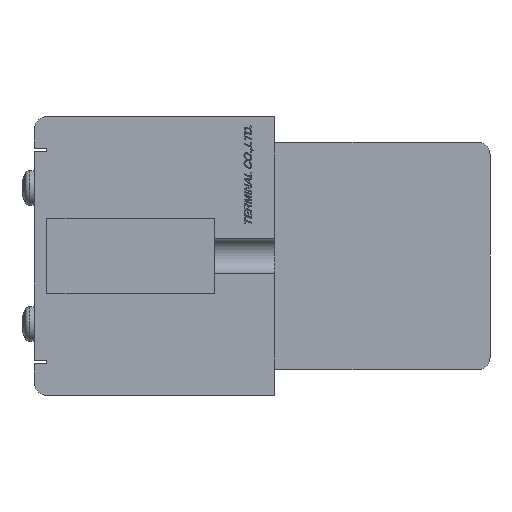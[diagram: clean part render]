
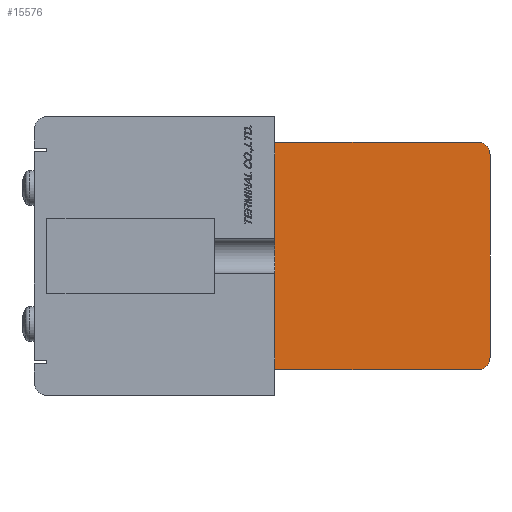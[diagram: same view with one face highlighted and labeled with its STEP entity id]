
A CAD part, left-side view. The second image highlights one B-rep face of the part: STEP entity #15576.
In plain terms, the highlighted planar face has unit normal (-1, 0, 0).
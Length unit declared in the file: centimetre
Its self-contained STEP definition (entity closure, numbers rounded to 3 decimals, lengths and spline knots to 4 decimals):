
#837=CIRCLE('',#16641,0.2);
#838=CIRCLE('',#16644,0.2);
#2269=VERTEX_POINT('',#24600);
#2270=VERTEX_POINT('',#24602);
#2277=VERTEX_POINT('',#24634);
#2278=VERTEX_POINT('',#24638);
#2279=VERTEX_POINT('',#24642);
#2280=VERTEX_POINT('',#24646);
#3849=VECTOR('',#19543,1.);
#3862=VECTOR('',#19571,1.);
#3865=VECTOR('',#19579,1.);
#3868=VECTOR('',#19587,1.);
#5403=LINE('',#24603,#3849);
#5416=LINE('',#24633,#3862);
#5419=LINE('',#24641,#3865);
#5422=LINE('',#24649,#3868);
#7648=EDGE_CURVE('',#2270,#2269,#5403,.T.);
#7663=EDGE_CURVE('',#2269,#2277,#5416,.T.);
#7665=EDGE_CURVE('',#2277,#2278,#837,.T.);
#7667=EDGE_CURVE('',#2278,#2279,#5419,.T.);
#7669=EDGE_CURVE('',#2279,#2280,#838,.T.);
#7671=EDGE_CURVE('',#2280,#2270,#5422,.T.);
#12128=ORIENTED_EDGE('',*,*,#7648,.F.);
#12129=ORIENTED_EDGE('',*,*,#7671,.F.);
#12130=ORIENTED_EDGE('',*,*,#7669,.F.);
#12131=ORIENTED_EDGE('',*,*,#7667,.F.);
#12132=ORIENTED_EDGE('',*,*,#7665,.F.);
#12133=ORIENTED_EDGE('',*,*,#7663,.F.);
#13637=EDGE_LOOP('',(#12128,#12129,#12130,#12131,#12132,#12133));
#14654=FACE_BOUND('',#13637,.T.);
#15576=ADVANCED_FACE('',(#14654),#25758,.F.);
#16641=AXIS2_PLACEMENT_3D('',#24637,#19575,#19576);
#16644=AXIS2_PLACEMENT_3D('',#24645,#19583,#19584);
#16646=AXIS2_PLACEMENT_3D('',#24650,#19588,$);
#19543=DIRECTION('',(0.,0.,1.));
#19571=DIRECTION('',(0.,-1.,0.));
#19575=DIRECTION('',(1.,0.,0.));
#19576=DIRECTION('',(0.,0.,-0.2));
#19579=DIRECTION('',(0.,0.,-1.));
#19583=DIRECTION('',(1.,0.,0.));
#19584=DIRECTION('',(0.,0.,-0.2));
#19587=DIRECTION('',(0.,1.,0.));
#19588=DIRECTION('',(1.,0.,0.));
#24600=CARTESIAN_POINT('',(-0.4,0.,1.8));
#24602=CARTESIAN_POINT('',(-0.4,0.,-1.8));
#24603=CARTESIAN_POINT('',(-0.4,0.,1.8));
#24633=CARTESIAN_POINT('',(-0.4,-3.2,1.8));
#24634=CARTESIAN_POINT('',(-0.4,-3.2,1.8));
#24637=CARTESIAN_POINT('',(-0.4,-3.2,1.6));
#24638=CARTESIAN_POINT('',(-0.4,-3.4,1.6));
#24641=CARTESIAN_POINT('',(-0.4,-3.4,-1.6));
#24642=CARTESIAN_POINT('',(-0.4,-3.4,-1.6));
#24645=CARTESIAN_POINT('',(-0.4,-3.2,-1.6));
#24646=CARTESIAN_POINT('',(-0.4,-3.2,-1.8));
#24649=CARTESIAN_POINT('',(-0.4,0.,-1.8));
#24650=CARTESIAN_POINT('',(-0.4,-1.6784,0.));
#25758=PLANE('',#16646);
